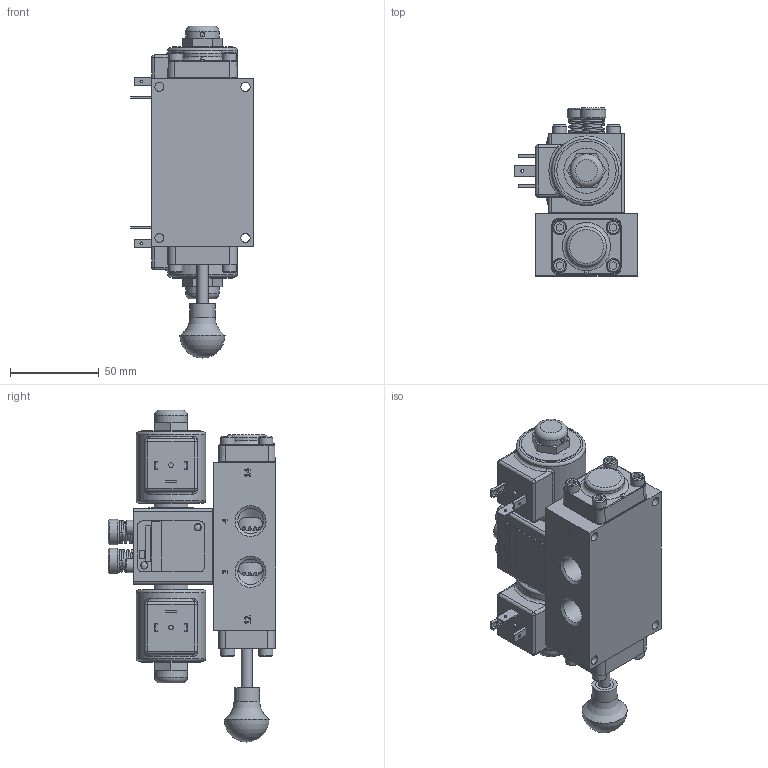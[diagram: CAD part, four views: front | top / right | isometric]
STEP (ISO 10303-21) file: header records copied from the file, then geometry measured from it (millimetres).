
FILE_DESCRIPTION(/* description */ (''),/* implementation_level */ '2;1');
FILE_NAME(/* name */ 'D:\Website New\Valves\Classic\SS\stp\SS3EDOPLOS.stp',/* time_stamp */ '2020-04-20T23:31:15-04:00',/* author */ ('RMcKenna'),/* organization */ (''),/* preprocessor_version */ 'ST-DEVELOPER v17',/* originating_system */ 'Autodesk Inventor 2018',/* authorisation */ '');
FILE_SCHEMA (('AUTOMOTIVE_DESIGN { 1 0 10303 214 3 1 1 }'));
Products named in the file (1): Part32
Bounding box: 68.87 x 94.37 x 186.64 mm (x, y, z)
Volume: 384295 mm3; surface area: 110098.5 mm2
Topology: 3 solids, 36 shells, 1685 faces, 4205 edges, 2743 vertices
Faces by surface type: plane 808, cylinder 334, cone 275, bspline 148, torus 108, sphere 12
Full cylindrical faces by diameter (mm): 1.6 x6, 2.07 x2, 2.261 x2, 2.381 x4, 2.54 x2, 2.778 x2, 3.048 x4, 3.175 x2, 3.302 x2, 3.683 x12, 3.912 x1, 3.962 x2, 4.366 x9, 4.826 x16, 4.978 x1, 5.105 x4, 5.156 x12, 5.159 x5, 5.537 x7, 6.35 x2, 6.629 x2, 7.671 x1, 7.938 x12, 7.95 x1, 9.474 x6, 9.525 x4, 9.922 x2, 11.113 x1, 11.303 x2, 11.328 x2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
Entity records: 58682 total; most frequent: CARTESIAN_POINT 17361, ORIENTED_EDGE 8362, DIRECTION 7925, EDGE_CURVE 4181, AXIS2_PLACEMENT_3D 2899, VERTEX_POINT 2747, LINE 2127, VECTOR 2127
